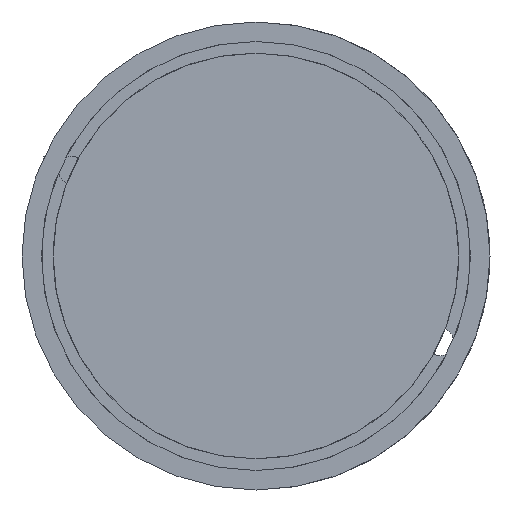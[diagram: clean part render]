
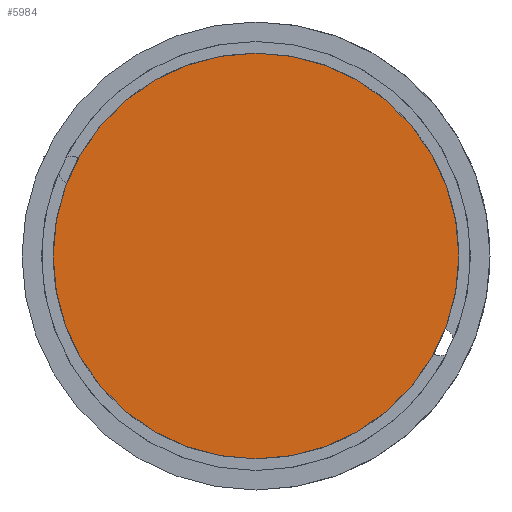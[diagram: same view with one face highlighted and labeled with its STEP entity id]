
A CAD part, front view. The second image highlights one B-rep face of the part: STEP entity #5984.
In plain terms, the highlighted planar face has unit normal (0, -1, 0).
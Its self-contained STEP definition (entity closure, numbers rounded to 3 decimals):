
#475 = CARTESIAN_POINT ( 'NONE',  ( 0., 0., 52. ) ) ;
#1103 = CARTESIAN_POINT ( 'NONE',  ( 0., 0., 0. ) ) ;
#2156 = EDGE_LOOP ( 'NONE', ( #7382, #6164 ) ) ;
#2243 = AXIS2_PLACEMENT_3D ( 'NONE', #6759, #6133, #7491 ) ;
#2897 = VERTEX_POINT ( 'NONE', #475 ) ;
#3320 = CARTESIAN_POINT ( 'NONE',  ( 0., 0., -52. ) ) ;
#3455 = PLANE ( 'NONE',  #2243 ) ;
#3709 = DIRECTION ( 'NONE',  ( 0., -1., 0. ) ) ;
#3796 = DIRECTION ( 'NONE',  ( 0., 0., -1. ) ) ;
#4636 = AXIS2_PLACEMENT_3D ( 'NONE', #1103, #5903, #3796 ) ;
#4686 = FACE_OUTER_BOUND ( 'NONE', #2156, .T. ) ;
#5592 = CARTESIAN_POINT ( 'NONE',  ( 0., 0., 0. ) ) ;
#5748 = CIRCLE ( 'NONE', #6621, 52. ) ;
#5861 = EDGE_CURVE ( 'NONE', #7531, #2897, #5748, .T. ) ;
#5903 = DIRECTION ( 'NONE',  ( 0., -1., 0. ) ) ;
#5984 = ADVANCED_FACE ( 'NONE', ( #4686 ), #3455, .T. ) ;
#6133 = DIRECTION ( 'NONE',  ( 0., -1., 0. ) ) ;
#6164 = ORIENTED_EDGE ( 'NONE', *, *, #7489, .T. ) ;
#6409 = DIRECTION ( 'NONE',  ( 0., 0., -1. ) ) ;
#6621 = AXIS2_PLACEMENT_3D ( 'NONE', #5592, #3709, #6409 ) ;
#6759 = CARTESIAN_POINT ( 'NONE',  ( 0., 0., 0. ) ) ;
#6902 = CIRCLE ( 'NONE', #4636, 52. ) ;
#7382 = ORIENTED_EDGE ( 'NONE', *, *, #5861, .T. ) ;
#7489 = EDGE_CURVE ( 'NONE', #2897, #7531, #6902, .T. ) ;
#7491 = DIRECTION ( 'NONE',  ( 0., 0., -1. ) ) ;
#7531 = VERTEX_POINT ( 'NONE', #3320 ) ;
